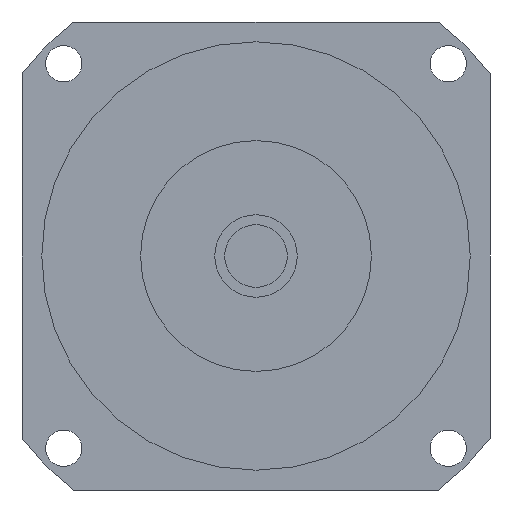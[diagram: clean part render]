
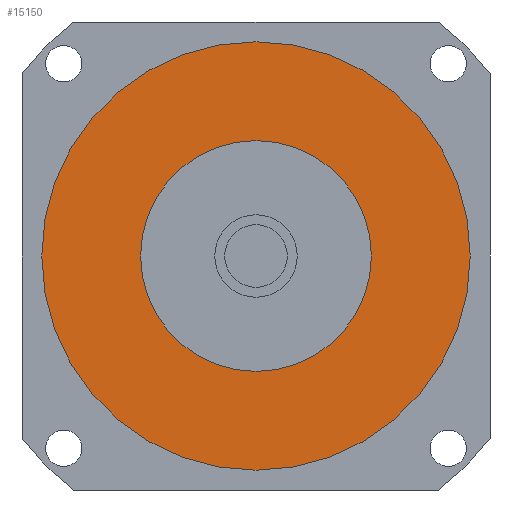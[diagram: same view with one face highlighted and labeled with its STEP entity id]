
A CAD part, left-side view. The second image highlights one B-rep face of the part: STEP entity #15150.
In plain terms, the highlighted planar face has unit normal (-1, 0, 0) as drawn and (0, 0, -1) by its records, which use the part's own axes.
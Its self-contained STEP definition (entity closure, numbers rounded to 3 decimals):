
#14570=CARTESIAN_POINT('',(65.,0.,-55.2));
#14580=VERTEX_POINT('',#14570);
#14670=CARTESIAN_POINT('',(-65.,0.,-55.2));
#14680=VERTEX_POINT('',#14670);
#14710=CARTESIAN_POINT('',(0.,0.,
-55.2));
#14720=DIRECTION('',(0.,0.,1.));
#14730=DIRECTION('',(0.,1.,0.));
#14740=AXIS2_PLACEMENT_3D('',#14710,#14720,#14730);
#14750=CIRCLE('',#14740,65.);
#14760=CARTESIAN_POINT('',(0.,65.,-55.2));
#14770=VERTEX_POINT('',#14760);
#14780=EDGE_CURVE('',#14770,#14680,#14750,.T.);
#14800=EDGE_CURVE('',#14580,#14770,#14750,.T.);
#14850=CARTESIAN_POINT('',(0.,0.,
-55.2));
#14860=DIRECTION('',(0.,0.,1.));
#14870=DIRECTION('',(-1.,0.,0.));
#14880=AXIS2_PLACEMENT_3D('',#14850,#14860,#14870);
#14890=PLANE('',#14880);
#14900=CARTESIAN_POINT('',(0.,0.,
-55.2));
#14910=DIRECTION('',(0.,0.,1.));
#14920=DIRECTION('',(0.,1.,0.));
#14930=AXIS2_PLACEMENT_3D('',#14900,#14910,#14920);
#14940=CIRCLE('',#14930,35.);
#14950=CARTESIAN_POINT('',(-35.,0.,-55.2));
#14960=VERTEX_POINT('',#14950);
#14970=CARTESIAN_POINT('',(35.,0.,-55.2));
#14980=VERTEX_POINT('',#14970);
#14990=EDGE_CURVE('',#14960,#14980,#14940,.T.);
#15000=ORIENTED_EDGE('',*,*,#14990,.T.);
#15010=CARTESIAN_POINT('',(0.,35.,-55.2));
#15020=VERTEX_POINT('',#15010);
#15030=EDGE_CURVE('',#15020,#14960,#14940,.T.);
#15040=ORIENTED_EDGE('',*,*,#15030,.T.);
#15050=EDGE_CURVE('',#14980,#15020,#14940,.T.);
#15060=ORIENTED_EDGE('',*,*,#15050,.T.);
#15070=EDGE_LOOP('',(#15060,#15040,#15000));
#15080=FACE_BOUND('',#15070,.T.);
#15090=ORIENTED_EDGE('',*,*,#14780,.F.);
#15100=EDGE_CURVE('',#14680,#14580,#14750,.T.);
#15110=ORIENTED_EDGE('',*,*,#15100,.F.);
#15120=ORIENTED_EDGE('',*,*,#14800,.F.);
#15130=EDGE_LOOP('',(#15120,#15110,#15090));
#15140=FACE_OUTER_BOUND('',#15130,.T.);
#15150=ADVANCED_FACE('',(#15080,#15140),#14890,.F.);
